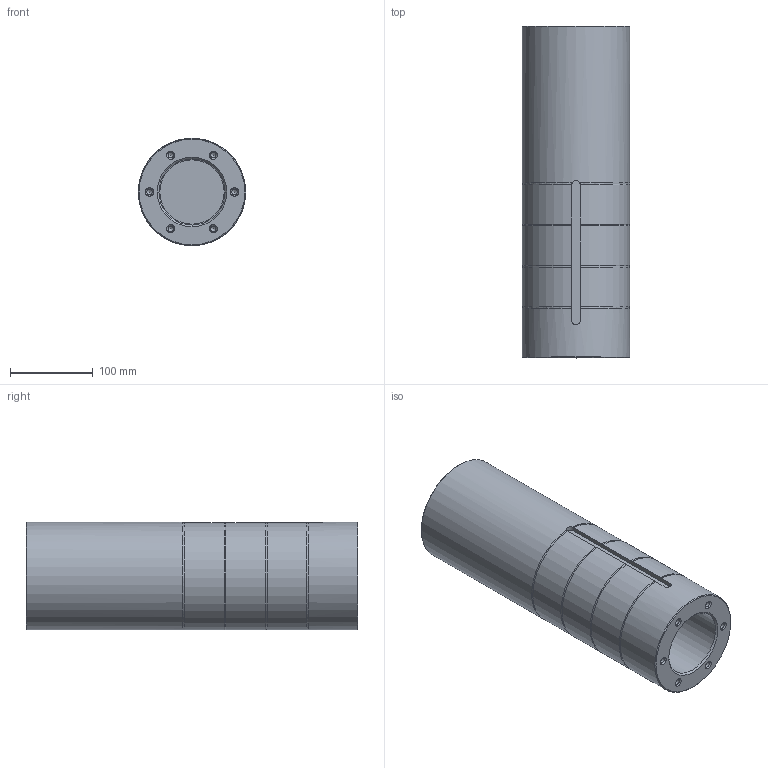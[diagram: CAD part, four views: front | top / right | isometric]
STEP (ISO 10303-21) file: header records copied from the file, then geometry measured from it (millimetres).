
FILE_DESCRIPTION(('STEP AP203'), '1');
FILE_NAME('04.067.03.001 扻豵鵨 歞膼錒', '', ('UNSPECIFIED'), ('UNSPECIFIED'), 'ASCON STEP Converter 1.6', 'ASCON Math Kernel', '');
FILE_SCHEMA(('CONFIG_CONTROL_DESIGN'));
Length unit declared in the file: millimetre
Products named in the file (1): 04.067.03.001
Bounding box: 130 x 402 x 130 mm (x, y, z)
Volume: 3032988.5 mm3; surface area: 300528.6 mm2
Topology: 1 solids, 1 shells, 82 faces, 183 edges, 107 vertices
Faces by surface type: cone 37, cylinder 28, plane 9, torus 8
Full cylindrical faces by diameter (mm): 4.917 x8, 6.647 x6, 80 x2, 81 x1, 90 x1, 92 x1, 100 x1, 102 x1, 130 x2
Entity records: 2846 total; most frequent: CARTESIAN_POINT 649, DIRECTION 342, ORIENTED_EDGE 210, AXIS2_PLACEMENT_3D 164, EDGE_LOOP 150, FACE_OUTER_BOUND 110, EDGE_CURVE 105, VERTEX_POINT 93
